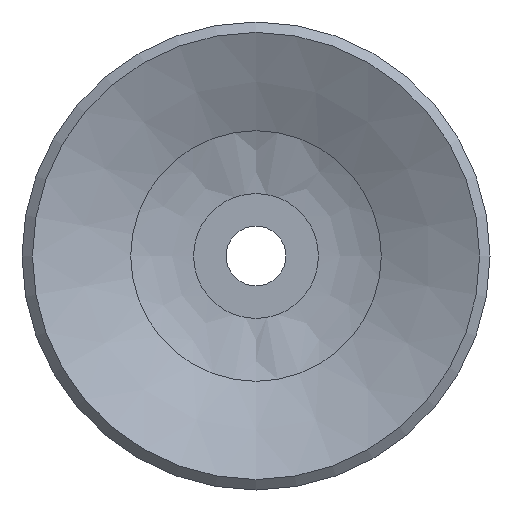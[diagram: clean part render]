
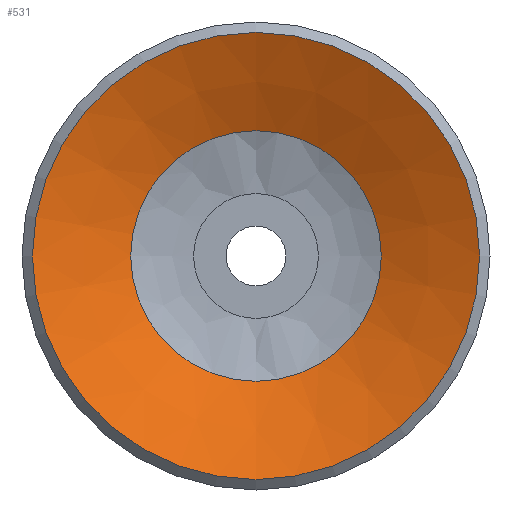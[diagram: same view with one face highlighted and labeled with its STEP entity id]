
A CAD part, front view. The second image highlights one B-rep face of the part: STEP entity #531.
In plain terms, the highlighted conical face has half-angle 65.056 degrees and reference radius 3.2 mm.
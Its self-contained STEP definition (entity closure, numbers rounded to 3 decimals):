
#531=ADVANCED_FACE('',(#785,#786),#787,.F.);
#785=FACE_BOUND('',#1140,.T.);
#786=FACE_OUTER_BOUND('',#1141,.T.);
#787=CONICAL_SURFACE('',#1142,3.2,1.135);
#1140=EDGE_LOOP('',(#2045));
#1141=EDGE_LOOP('',(#2046));
#1142=AXIS2_PLACEMENT_3D('',#2047,#2048,#2049);
#2045=ORIENTED_EDGE('',*,*,#2556,.T.);
#2046=ORIENTED_EDGE('',*,*,#2557,.T.);
#2047=CARTESIAN_POINT('',(0.0,7.896,0.0));
#2048=DIRECTION('',(-0.0,-1.0,0.));
#2049=DIRECTION('',(0.0,0.,-1.0));
#2556=EDGE_CURVE('',#2882,#2882,#2883,.T.);
#2557=EDGE_CURVE('',#2884,#2884,#2885,.T.);
#2882=VERTEX_POINT('',#3588);
#2883=CIRCLE('',#3589,4.203);
#2884=VERTEX_POINT('',#3590);
#2885=CIRCLE('',#3591,7.5);
#3588=CARTESIAN_POINT('',(0.0,7.43,-4.203));
#3589=AXIS2_PLACEMENT_3D('',#4289,#4290,#4291);
#3590=CARTESIAN_POINT('',(0.0,5.896,-7.5));
#3591=AXIS2_PLACEMENT_3D('',#4292,#4293,#4294);
#4289=CARTESIAN_POINT('',(0.0,7.43,0.0));
#4290=DIRECTION('',(0.0,1.0,0.));
#4291=DIRECTION('',(0.0,0.,-1.0));
#4292=CARTESIAN_POINT('',(0.0,5.896,0.0));
#4293=DIRECTION('',(0.0,-1.0,0.));
#4294=DIRECTION('',(0.0,0.,-1.0));
